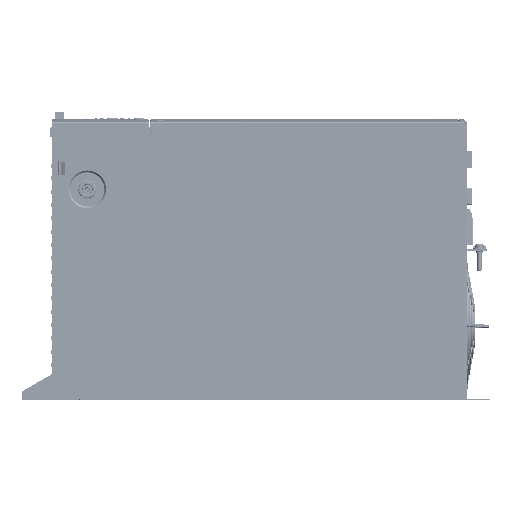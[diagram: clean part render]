
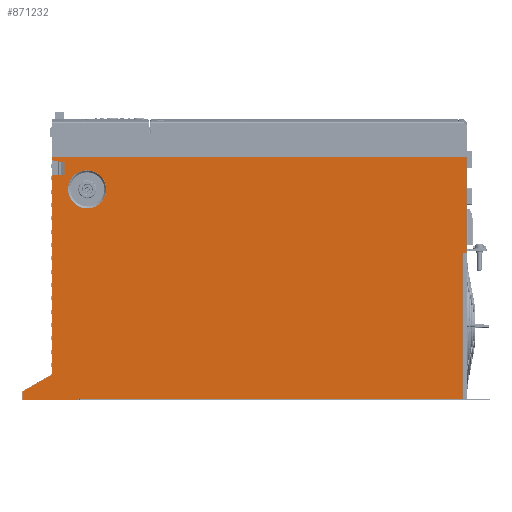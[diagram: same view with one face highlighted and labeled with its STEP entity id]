
A CAD part, left-side view. The second image highlights one B-rep face of the part: STEP entity #871232.
In plain terms, the highlighted planar face has unit normal (-1, 0, 0).
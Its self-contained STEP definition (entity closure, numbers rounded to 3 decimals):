
#799163=DIRECTION('',(0.,-1.,0.));
#799164=VECTOR('',#799163,47.982);
#799165=CARTESIAN_POINT('',(-112.,25.5,-216.4));
#799166=LINE('',#799165,#799164);
#802160=DIRECTION('',(0.,0.,-1.));
#802161=VECTOR('',#802160,174.148);
#802162=CARTESIAN_POINT('',(-112.,-0.5,-19.052));
#802163=LINE('',#802162,#802161);
#802180=DIRECTION('',(0.,1.,0.));
#802181=VECTOR('',#802180,11.552);
#802182=CARTESIAN_POINT('',(-112.,-12.052,-19.052));
#802183=LINE('',#802182,#802181);
#802216=DIRECTION('',(0.,0.,-1.));
#802217=VECTOR('',#802216,2.469);
#802218=CARTESIAN_POINT('',(-112.,-0.5,-3.508));
#802219=LINE('',#802218,#802217);
#802236=DIRECTION('',(0.,1.,0.));
#802237=VECTOR('',#802236,362.917);
#802238=CARTESIAN_POINT('',(-112.,-363.417,-3.508));
#802239=LINE('',#802238,#802237);
#803150=DIRECTION('',(0.,-1.,0.));
#803151=VECTOR('',#803150,337.);
#803152=CARTESIAN_POINT('',(-112.,-23.,-214.9));
#803153=LINE('',#803152,#803151);
#803410=DIRECTION('',(0.,0.,1.));
#803411=VECTOR('',#803410,127.341);
#803412=CARTESIAN_POINT('',(-112.,-360.,-214.9));
#803413=LINE('',#803412,#803411);
#803428=DIRECTION('',(0.,-1.,0.015));
#803429=VECTOR('',#803428,3.5);
#803430=CARTESIAN_POINT('',(-112.,-360.,-87.559));
#803431=LINE('',#803430,#803429);
#803443=DIRECTION('',(0.,0.,1.));
#803444=VECTOR('',#803443,74.083);
#803445=CARTESIAN_POINT('',(-112.,-363.5,-87.509));
#803446=LINE('',#803445,#803444);
#803458=DIRECTION('',(0.,0.,1.));
#803459=VECTOR('',#803458,9.918);
#803460=CARTESIAN_POINT('',(-112.,-363.417,-13.425));
#803461=LINE('',#803460,#803459);
#810571=CARTESIAN_POINT('',(-112.,-22.482,-215.9));
#810572=DIRECTION('',(1.,0.,0.));
#810573=DIRECTION('',(0.,-1.,-0.017));
#810574=AXIS2_PLACEMENT_3D('',#810571,#810572,#810573);
#810576=DIRECTION('',(0.,-0.866,
0.5));
#810577=VECTOR('',#810576,29.445);
#810578=CARTESIAN_POINT('',(-112.,25.5,
-208.789));
#810579=LINE('',#810578,#810577);
#810580=CARTESIAN_POINT('',(-112.,0.5,-193.2));
#810581=DIRECTION('',(-1.,0.,0.));
#810582=DIRECTION('',(0.,-0.5,-0.866));
#810583=AXIS2_PLACEMENT_3D('',#810580,#810581,#810582);
#810585=DIRECTION('',(0.,0.985,0.174));
#810586=VECTOR('',#810585,11.731);
#810587=CARTESIAN_POINT('',(-112.,-12.052,-8.014));
#810588=LINE('',#810587,#810586);
#810589=CARTESIAN_POINT('',(-112.,-363.417,-13.425));
#810590=CARTESIAN_POINT('',(-112.,-363.423,-13.425));
#810591=CARTESIAN_POINT('',(-111.999,-363.447,
-13.425));
#810592=CARTESIAN_POINT('',(-112.003,-363.457,
-13.426));
#810593=CARTESIAN_POINT('',(-112.003,-363.474,
-13.426));
#810595=CARTESIAN_POINT('',(-112.,-31.2,-31.5));
#810596=DIRECTION('',(-1.,0.,0.));
#810597=DIRECTION('',(0.,-1.,0.));
#810598=AXIS2_PLACEMENT_3D('',#810595,#810596,#810597);
#810600=CARTESIAN_POINT('',(-112.,-31.2,-31.5));
#810601=DIRECTION('',(-1.,0.,0.));
#810602=DIRECTION('',(0.,1.,0.));
#810603=AXIS2_PLACEMENT_3D('',#810600,#810601,#810602);
#810609=DIRECTION('',(0.,0.,-1.));
#810610=VECTOR('',#810609,7.611);
#810611=CARTESIAN_POINT('',(-112.,25.5,
-208.789));
#810612=LINE('',#810611,#810610);
#811722=DIRECTION('',(0.,0.,-1.));
#811723=VECTOR('',#811722,11.038);
#811724=CARTESIAN_POINT('',(-112.,-12.052,-8.014));
#811725=LINE('',#811724,#811723);
#811774=DIRECTION('',(0.,-0.017,1.));
#811775=VECTOR('',#811774,1.009);
#811776=CARTESIAN_POINT('',(-112.,-22.982,-215.909));
#811777=LINE('',#811776,#811775);
#842059=CARTESIAN_POINT('',(-112.,25.5,
-208.789));
#842060=VERTEX_POINT('',#842059);
#842081=CARTESIAN_POINT('',(-112.,-47.907,-31.5));
#842082=CARTESIAN_POINT('',(-112.,-14.493,-31.5));
#842083=VERTEX_POINT('',#842081);
#842084=VERTEX_POINT('',#842082);
#842093=CARTESIAN_POINT('',(-112.,-22.982,-215.909));
#842094=CARTESIAN_POINT('',(-112.,-22.482,-216.4));
#842095=VERTEX_POINT('',#842093);
#842096=VERTEX_POINT('',#842094);
#842097=CARTESIAN_POINT('',(-112.,25.5,-216.4));
#842098=VERTEX_POINT('',#842097);
#842099=CARTESIAN_POINT('',(-112.,0.,
-194.066));
#842100=VERTEX_POINT('',#842099);
#842101=CARTESIAN_POINT('',(-112.,-0.5,-193.2));
#842102=VERTEX_POINT('',#842101);
#842103=CARTESIAN_POINT('',(-112.,-0.5,-19.052));
#842104=VERTEX_POINT('',#842103);
#842105=CARTESIAN_POINT('',(-112.,-12.052,-19.052));
#842106=VERTEX_POINT('',#842105);
#842107=CARTESIAN_POINT('',(-112.,-12.052,-8.014));
#842108=VERTEX_POINT('',#842107);
#842109=CARTESIAN_POINT('',(-112.,-0.5,-5.977));
#842110=VERTEX_POINT('',#842109);
#842111=CARTESIAN_POINT('',(-112.,-0.5,-3.508));
#842112=VERTEX_POINT('',#842111);
#842113=CARTESIAN_POINT('',(-112.,-363.417,-3.508));
#842114=VERTEX_POINT('',#842113);
#842115=CARTESIAN_POINT('',(-112.,-363.417,-13.425));
#842116=VERTEX_POINT('',#842115);
#842117=CARTESIAN_POINT('',(-112.,-363.5,-87.509));
#842118=CARTESIAN_POINT('',(-112.003,-363.474,
-13.426));
#842119=VERTEX_POINT('',#842117);
#842120=VERTEX_POINT('',#842118);
#842121=CARTESIAN_POINT('',(-112.,-360.,-214.9));
#842122=CARTESIAN_POINT('',(-112.,-360.,-87.559));
#842123=VERTEX_POINT('',#842121);
#842124=VERTEX_POINT('',#842122);
#842125=CARTESIAN_POINT('',(-112.,-23.,-214.9));
#842126=VERTEX_POINT('',#842125);
#871197=CARTESIAN_POINT('',(-112.,-169.,-109.954));
#871198=DIRECTION('',(1.,0.,0.));
#871199=DIRECTION('',(0.,0.,1.));
#871200=AXIS2_PLACEMENT_3D('',#871197,#871198,#871199);
#871201=PLANE('',#871200);
#871202=ORIENTED_EDGE('',*,*,#871188,.T.);
#871203=ORIENTED_EDGE('',*,*,#853506,.F.);
#871205=ORIENTED_EDGE('',*,*,#871204,.F.);
#871207=ORIENTED_EDGE('',*,*,#871206,.T.);
#871208=ORIENTED_EDGE('',*,*,#857569,.T.);
#871209=ORIENTED_EDGE('',*,*,#857586,.F.);
#871210=ORIENTED_EDGE('',*,*,#857609,.F.);
#871212=ORIENTED_EDGE('',*,*,#871211,.F.);
#871213=ORIENTED_EDGE('',*,*,#857653,.T.);
#871214=ORIENTED_EDGE('',*,*,#857673,.F.);
#871215=ORIENTED_EDGE('',*,*,#857693,.F.);
#871216=ORIENTED_EDGE('',*,*,#859444,.F.);
#871217=ORIENTED_EDGE('',*,*,#859442,.T.);
#871218=ORIENTED_EDGE('',*,*,#859414,.F.);
#871219=ORIENTED_EDGE('',*,*,#859399,.F.);
#871220=ORIENTED_EDGE('',*,*,#859383,.F.);
#871221=ORIENTED_EDGE('',*,*,#859036,.F.);
#871223=ORIENTED_EDGE('',*,*,#871222,.F.);
#871224=EDGE_LOOP('',(#871202,#871203,#871205,#871207,#871208,#871209,#871210,
#871212,#871213,#871214,#871215,#871216,#871217,#871218,#871219,#871220,#871221,
#871223));
#871225=FACE_OUTER_BOUND('',#871224,.F.);
#871227=ORIENTED_EDGE('',*,*,#871226,.T.);
#871229=ORIENTED_EDGE('',*,*,#871228,.T.);
#871230=EDGE_LOOP('',(#871227,#871229));
#871231=FACE_BOUND('',#871230,.F.);
#871232=ADVANCED_FACE('',(#871225,#871231),#871201,.F.);
#810575=CIRCLE('',#810574,0.5);
#810584=CIRCLE('',#810583,1.);
#810594=B_SPLINE_CURVE_WITH_KNOTS('',3,(#810589,#810590,#810591,#810592,
#810593),.UNSPECIFIED.,.F.,.F.,(4,1,4),(0.,0.5,1.),.UNSPECIFIED.);
#810599=CIRCLE('',#810598,16.707);
#810604=CIRCLE('',#810603,16.707);
#853506=EDGE_CURVE('',#842098,#842096,#799166,.T.);
#857569=EDGE_CURVE('',#842100,#842102,#810584,.T.);
#857586=EDGE_CURVE('',#842104,#842102,#802163,.T.);
#857609=EDGE_CURVE('',#842106,#842104,#802183,.T.);
#857653=EDGE_CURVE('',#842108,#842110,#810588,.T.);
#857673=EDGE_CURVE('',#842112,#842110,#802219,.T.);
#857693=EDGE_CURVE('',#842114,#842112,#802239,.T.);
#859036=EDGE_CURVE('',#842126,#842123,#803153,.T.);
#859383=EDGE_CURVE('',#842123,#842124,#803413,.T.);
#859399=EDGE_CURVE('',#842124,#842119,#803431,.T.);
#859414=EDGE_CURVE('',#842119,#842120,#803446,.T.);
#859442=EDGE_CURVE('',#842116,#842120,#810594,.T.);
#859444=EDGE_CURVE('',#842116,#842114,#803461,.T.);
#871188=EDGE_CURVE('',#842095,#842096,#810575,.T.);
#871204=EDGE_CURVE('',#842060,#842098,#810612,.T.);
#871206=EDGE_CURVE('',#842060,#842100,#810579,.T.);
#871211=EDGE_CURVE('',#842108,#842106,#811725,.T.);
#871222=EDGE_CURVE('',#842095,#842126,#811777,.T.);
#871226=EDGE_CURVE('',#842083,#842084,#810599,.T.);
#871228=EDGE_CURVE('',#842084,#842083,#810604,.T.);
